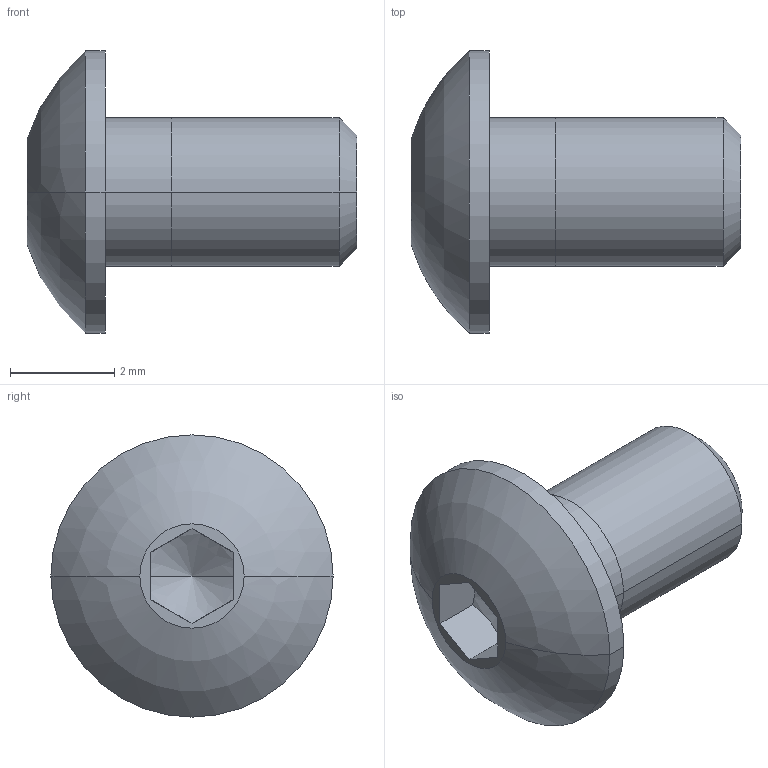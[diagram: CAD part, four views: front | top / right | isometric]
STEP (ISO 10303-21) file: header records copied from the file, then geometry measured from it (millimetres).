
FILE_DESCRIPTION(/* description */ ('VariCAD 2008 3.04 AP-203'),/* implementation_level */ '2;1');
FILE_NAME(/* name */ '0353-97-01',/* time_stamp */ '2009-04-29T10:13:06-06:00',/* author */ (''),/* organization */ (''),/* preprocessor_version */ 'ST-DEVELOPER v12',/* originating_system */ 'VariCAD 2008 3.04; kernel version (20080715)',/* authorisation */ '');
FILE_SCHEMA (('CONFIG_CONTROL_DESIGN'));
Length unit declared in the file: millimetre
Products named in the file (1): Part
Bounding box: 6.32 x 5.41 x 5.41 mm (x, y, z)
Volume: 51.9 mm3; surface area: 157.6 mm2
Topology: 2 solids, 2 shells, 27 faces, 60 edges, 37 vertices
Faces by surface type: plane 11, cylinder 10, cone 4, sphere 2
Entity records: 814 total; most frequent: CARTESIAN_POINT 165, DIRECTION 134, ORIENTED_EDGE 116, EDGE_CURVE 58, AXIS2_PLACEMENT_3D 54, VERTEX_POINT 37, EDGE_LOOP 31, ADVANCED_FACE 27
